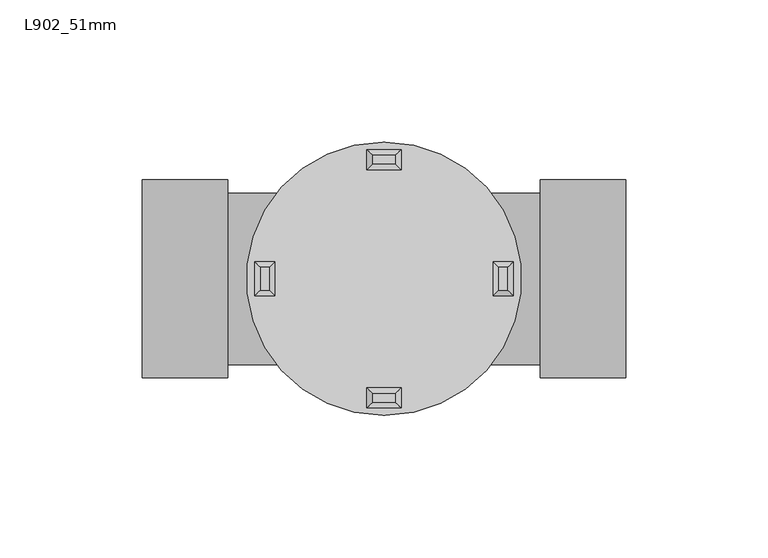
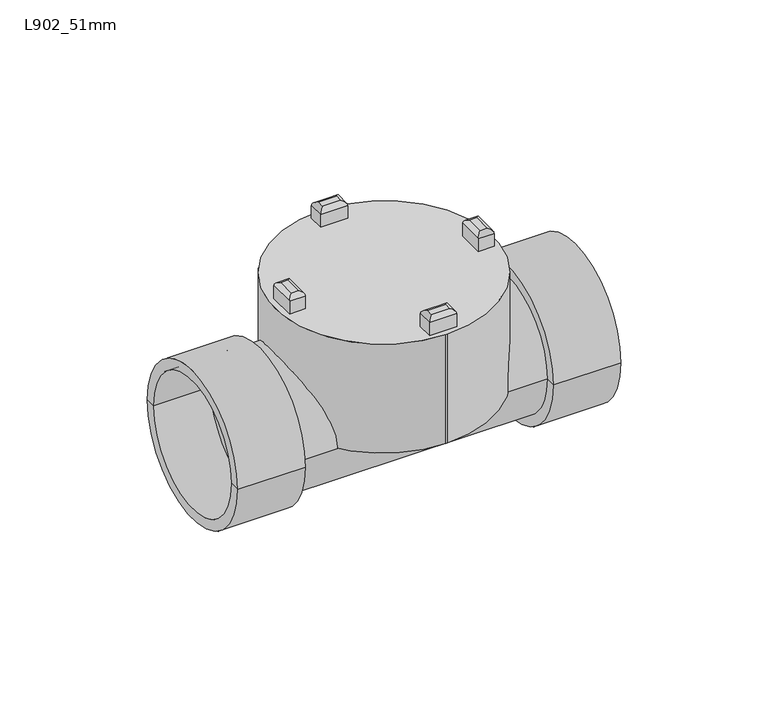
"""IFC4 building model written with IfcOpenShell, lengths in millimetres: pipe fitting geometry, Durapipe_PipeFitting_VulcatheneEnfusion_AccessPipe_L90 : L902_51mm."""

from ifc_helpers import new_model, si_unit, point, frame, frame_2d, origin, origin_with_axes, place, context, project, spatial, polyline, circle_curve, ellipse_curve, trimmed, segment, composite_curve, outline, extrude, source, transform, mapped, element, save
from ifc_brep_helpers import plane_surface, cylinder_surface, revolved_surface, advanced_brep


def l902_51mm_cfe6408b(model_context):
    return source(origin(), model_context, "Body", "SolidModel", [
        advanced_brep(
        [(38.4, -6.0, 57.15), (38.4, 6.0, 57.15), (38.4, 6.0, 51.15), (38.4, -6.0, 51.15), (45.4, 6.0, 57.15), (45.4, -6.0, 57.15), (45.4, -6.0, 51.15), (45.4, 6.0, 51.15), (40.4, 4.0, 59.15), (40.4, -4.0, 59.15), (43.4, -4.0, 59.15), (43.4, 4.0, 59.15)],
        [
            (0, 1),
            (1, 2),
            (2, 3),
            (3, 0),
            (4, 5),
            (5, 6),
            (6, 7),
            (7, 4),
            (8, 9),
            (9, 10),
            (10, 11),
            (11, 8),
            (5, 10, ellipse_curve(frame((43.4, -4.0, 57.15), z_axis=(-0.7071067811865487, -0.7071067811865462, 0.0), x_axis=(-0.7071067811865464, 0.7071067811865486, 0.0)), 2.8284271, 2.0)),
            (9, 0, ellipse_curve(frame((40.4, -4.0, 57.15), z_axis=(0.7071067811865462, -0.7071067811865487, 0.0), x_axis=(-0.7071067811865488, -0.7071067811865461, 0.0)), 2.8284271, 2.0)),
            (0, 5),
            (3, 6),
            (2, 7),
            (1, 4),
            (1, 8, ellipse_curve(frame((40.4, 4.0, 57.15), z_axis=(0.7071067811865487, 0.7071067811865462, 0.0), x_axis=(-0.7071067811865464, 0.7071067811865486, 0.0)), 2.8284271, 2.0)),
            (11, 4, ellipse_curve(frame((43.4, 4.0, 57.15), z_axis=(-0.7071067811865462, 0.7071067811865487, 0.0), x_axis=(-0.7071067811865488, -0.7071067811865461, 0.0)), 2.8284271, 2.0)),
        ],
        [
            plane_surface(frame((38.4, -6.0, 59.15), z_axis=(-1.0, 0.0, 0.0), x_axis=(0.0, -1.0, 0.0))),
            plane_surface(frame((45.4, -6.0, 59.15), z_axis=(1.0, 0.0, 0.0), x_axis=(0.0, 1.0, 0.0))),
            plane_surface(frame((38.4, 4.0, 59.15), z_axis=(0.0, 0.0, 1.0), x_axis=(1.0, 0.0, 0.0))),
            cylinder_surface(frame((45.4, -4.0, 57.15), z_axis=(-1.0, 0.0, 0.0), x_axis=(0.0, 1.0, 0.0)), 2.0),
            plane_surface(frame((38.4, -6.0, 57.15), z_axis=(0.0, -1.0, 0.0), x_axis=(1.0, 0.0, 0.0))),
            plane_surface(frame((38.4, -6.0, 51.15), z_axis=(0.0, 0.0, -1.0), x_axis=(1.0, 0.0, 0.0))),
            plane_surface(frame((38.4, 6.0, 51.15), z_axis=(0.0, 1.0, 0.0), x_axis=(1.0, 0.0, 0.0))),
            cylinder_surface(frame((45.4, 4.0, 57.15), z_axis=(-1.0, 0.0, 0.0), x_axis=(0.0, 1.0, 0.0)), 2.0),
            cylinder_surface(frame((43.4, -6.0, 57.15), z_axis=(0.0, -1.0, 0.0), x_axis=(-1.0, 0.0, 0.0)), 2.0),
            cylinder_surface(frame((40.4, -6.0, 57.15), z_axis=(0.0, -1.0, 0.0), x_axis=(-1.0, 0.0, 0.0)), 2.0),
        ],
        [
            (0, [[1, 2, 3, 4]]),
            (1, [[5, 6, 7, 8]]),
            (2, [[9, 10, 11, 12]]),
            (3, [[13, -10, 14, 15]]),
            (4, [[16, -6, -15, -4]]),
            (5, [[17, -7, -16, -3]]),
            (6, [[18, -8, -17, -2]]),
            (7, [[19, -12, 20, -18]]),
            (8, [[-20, -11, -13, -5]]),
            (9, [[-14, -9, -19, -1]]),
        ],
    ),
        advanced_brep(
        [(6.0, -38.4, 57.15), (6.0, -38.4, 51.15), (-6.0, -38.4, 51.15), (-6.0, -38.4, 57.15), (-6.0, -45.4, 57.15), (-6.0, -45.4, 51.15), (6.0, -45.4, 51.15), (6.0, -45.4, 57.15), (-4.0, -40.4, 59.15), (-4.0, -43.4, 59.15), (4.0, -43.4, 59.15), (4.0, -40.4, 59.15)],
        [
            (0, 1),
            (1, 2),
            (2, 3),
            (3, 0),
            (4, 5),
            (5, 6),
            (6, 7),
            (7, 4),
            (8, 9),
            (9, 10),
            (10, 11),
            (11, 8),
            (7, 0),
            (0, 11, ellipse_curve(frame((4.0, -40.4, 57.15), z_axis=(0.7071067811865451, -0.7071067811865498, 0.0), x_axis=(0.7071067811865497, 0.7071067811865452, 0.0)), 2.8284271, 2.0)),
            (10, 7, ellipse_curve(frame((4.0, -43.4, 57.15), z_axis=(0.7071067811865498, 0.7071067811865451, 0.0), x_axis=(-0.7071067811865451, 0.70710678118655, 0.0)), 2.8284271, 2.0)),
            (6, 1),
            (5, 2),
            (4, 3),
            (4, 9, ellipse_curve(frame((-4.0, -43.4, 57.15), z_axis=(-0.7071067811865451, 0.7071067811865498, 0.0), x_axis=(0.7071067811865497, 0.7071067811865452, 0.0)), 2.8284271, 2.0)),
            (8, 3, ellipse_curve(frame((-4.0, -40.4, 57.15), z_axis=(-0.7071067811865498, -0.7071067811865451, 0.0), x_axis=(-0.7071067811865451, 0.70710678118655, 0.0)), 2.8284271, 2.0)),
        ],
        [
            plane_surface(frame((6.0, -38.4, 59.15), z_axis=(0.0, 1.0, 0.0), x_axis=(1.0, 0.0, 0.0))),
            plane_surface(frame((6.0, -45.4, 59.15), z_axis=(0.0, -1.0, 0.0), x_axis=(-1.0, 0.0, 0.0))),
            plane_surface(frame((-4.0, -38.4, 59.15), z_axis=(0.0, 0.0, 1.0), x_axis=(0.0, -1.0, 0.0))),
            cylinder_surface(frame((4.0, -45.4, 57.15), z_axis=(0.0, 1.0, 0.0), x_axis=(-1.0, 0.0, 0.0)), 2.0),
            plane_surface(frame((6.0, -38.4, 57.15), z_axis=(1.0, 0.0, 0.0), x_axis=(0.0, -1.0, 0.0))),
            plane_surface(frame((6.0, -38.4, 51.15), z_axis=(0.0, 0.0, -1.0), x_axis=(0.0, -1.0, 0.0))),
            plane_surface(frame((-6.0, -38.4, 51.15), z_axis=(-1.0, 0.0, 0.0), x_axis=(0.0, -1.0, 0.0))),
            cylinder_surface(frame((-4.0, -45.4, 57.15), z_axis=(0.0, 1.0, 0.0), x_axis=(-1.0, 0.0, 0.0)), 2.0),
            cylinder_surface(frame((6.0, -43.4, 57.15), z_axis=(1.0, 0.0, 0.0), x_axis=(0.0, 1.0, 0.0)), 2.0),
            cylinder_surface(frame((6.0, -40.4, 57.15), z_axis=(1.0, 0.0, 0.0), x_axis=(0.0, 1.0, 0.0)), 2.0),
        ],
        [
            (0, [[1, 2, 3, 4]]),
            (1, [[5, 6, 7, 8]]),
            (2, [[9, 10, 11, 12]]),
            (3, [[13, 14, -11, 15]]),
            (4, [[-1, -13, -7, 16]]),
            (5, [[-2, -16, -6, 17]]),
            (6, [[-3, -17, -5, 18]]),
            (7, [[-18, 19, -9, 20]]),
            (8, [[-8, -15, -10, -19]]),
            (9, [[-4, -20, -12, -14]]),
        ],
    ),
        advanced_brep(
        [(6.0, 45.4, 57.15), (6.0, 45.4, 51.15), (-6.0, 45.4, 51.15), (-6.0, 45.4, 57.15), (-6.0, 38.4, 57.15), (-6.0, 38.4, 51.15), (6.0, 38.4, 51.15), (6.0, 38.4, 57.15), (-4.0, 43.4, 59.15), (-4.0, 40.4, 59.15), (4.0, 40.4, 59.15), (4.0, 43.4, 59.15)],
        [
            (0, 1),
            (1, 2),
            (2, 3),
            (3, 0),
            (4, 5),
            (5, 6),
            (6, 7),
            (7, 4),
            (8, 9),
            (9, 10),
            (10, 11),
            (11, 8),
            (7, 0),
            (0, 11, ellipse_curve(frame((4.0, 43.4, 57.15), z_axis=(0.7071067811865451, -0.7071067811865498, 0.0), x_axis=(0.7071067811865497, 0.7071067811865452, 0.0)), 2.8284271, 2.0)),
            (10, 7, ellipse_curve(frame((4.0, 40.4, 57.15), z_axis=(0.7071067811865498, 0.7071067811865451, 0.0), x_axis=(-0.7071067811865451, 0.70710678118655, 0.0)), 2.8284271, 2.0)),
            (6, 1),
            (5, 2),
            (4, 3),
            (4, 9, ellipse_curve(frame((-4.0, 40.4, 57.15), z_axis=(-0.7071067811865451, 0.7071067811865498, 0.0), x_axis=(0.7071067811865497, 0.7071067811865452, 0.0)), 2.8284271, 2.0)),
            (8, 3, ellipse_curve(frame((-4.0, 43.4, 57.15), z_axis=(-0.7071067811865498, -0.7071067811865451, 0.0), x_axis=(-0.7071067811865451, 0.70710678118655, 0.0)), 2.8284271, 2.0)),
        ],
        [
            plane_surface(frame((6.0, 45.4, 59.15), z_axis=(0.0, 1.0, 0.0), x_axis=(1.0, 0.0, 0.0))),
            plane_surface(frame((6.0, 38.4, 59.15), z_axis=(0.0, -1.0, 0.0), x_axis=(-1.0, 0.0, 0.0))),
            plane_surface(frame((-4.0, 45.4, 59.15), z_axis=(0.0, 0.0, 1.0), x_axis=(0.0, -1.0, 0.0))),
            cylinder_surface(frame((4.0, 38.4, 57.15), z_axis=(0.0, 1.0, 0.0), x_axis=(-1.0, 0.0, 0.0)), 2.0),
            plane_surface(frame((6.0, 45.4, 57.15), z_axis=(1.0, 0.0, 0.0), x_axis=(0.0, -1.0, 0.0))),
            plane_surface(frame((6.0, 45.4, 51.15), z_axis=(0.0, 0.0, -1.0), x_axis=(0.0, -1.0, 0.0))),
            plane_surface(frame((-6.0, 45.4, 51.15), z_axis=(-1.0, 0.0, 0.0), x_axis=(0.0, -1.0, 0.0))),
            cylinder_surface(frame((-4.0, 38.4, 57.15), z_axis=(0.0, 1.0, 0.0), x_axis=(-1.0, 0.0, 0.0)), 2.0),
            cylinder_surface(frame((6.0, 40.4, 57.15), z_axis=(1.0, 0.0, 0.0), x_axis=(0.0, 1.0, 0.0)), 2.0),
            cylinder_surface(frame((6.0, 43.4, 57.15), z_axis=(1.0, 0.0, 0.0), x_axis=(0.0, 1.0, 0.0)), 2.0),
        ],
        [
            (0, [[1, 2, 3, 4]]),
            (1, [[5, 6, 7, 8]]),
            (2, [[9, 10, 11, 12]]),
            (3, [[13, 14, -11, 15]]),
            (4, [[-1, -13, -7, 16]]),
            (5, [[-2, -16, -6, 17]]),
            (6, [[-3, -17, -5, 18]]),
            (7, [[-18, 19, -9, 20]]),
            (8, [[-8, -15, -10, -19]]),
            (9, [[-4, -20, -12, -14]]),
        ],
    ),
        advanced_brep(
        [(-38.4, -6.0, 57.15), (-38.4, -6.0, 51.15), (-38.4, 6.0, 51.15), (-38.4, 6.0, 57.15), (-45.4, 6.0, 57.15), (-45.4, 6.0, 51.15), (-45.4, -6.0, 51.15), (-45.4, -6.0, 57.15), (-40.4, 4.0, 59.15), (-43.4, 4.0, 59.15), (-43.4, -4.0, 59.15), (-40.4, -4.0, 59.15)],
        [
            (0, 1),
            (1, 2),
            (2, 3),
            (3, 0),
            (4, 5),
            (5, 6),
            (6, 7),
            (7, 4),
            (8, 9),
            (9, 10),
            (10, 11),
            (11, 8),
            (7, 0),
            (0, 11, ellipse_curve(frame((-40.4, -4.0, 57.15), z_axis=(-0.7071067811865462, -0.7071067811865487, 0.0), x_axis=(0.7071067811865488, -0.7071067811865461, 0.0)), 2.8284271, 2.0)),
            (10, 7, ellipse_curve(frame((-43.4, -4.0, 57.15), z_axis=(0.7071067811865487, -0.7071067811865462, 0.0), x_axis=(0.7071067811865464, 0.7071067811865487, 0.0)), 2.8284271, 2.0)),
            (6, 1),
            (5, 2),
            (4, 3),
            (4, 9, ellipse_curve(frame((-43.4, 4.0, 57.15), z_axis=(0.7071067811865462, 0.7071067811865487, 0.0), x_axis=(0.7071067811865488, -0.7071067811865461, 0.0)), 2.8284271, 2.0)),
            (8, 3, ellipse_curve(frame((-40.4, 4.0, 57.15), z_axis=(-0.7071067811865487, 0.7071067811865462, 0.0), x_axis=(0.7071067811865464, 0.7071067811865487, 0.0)), 2.8284271, 2.0)),
        ],
        [
            plane_surface(frame((-38.4, -6.0, 59.15), z_axis=(1.0, 0.0, 0.0), x_axis=(0.0, -1.0, 0.0))),
            plane_surface(frame((-45.4, -6.0, 59.15), z_axis=(-1.0, 0.0, 0.0), x_axis=(0.0, 1.0, 0.0))),
            plane_surface(frame((-38.4, 4.0, 59.15), z_axis=(0.0, 0.0, 1.0), x_axis=(-1.0, 0.0, 0.0))),
            cylinder_surface(frame((-45.4, -4.0, 57.15), z_axis=(1.0, 0.0, 0.0), x_axis=(0.0, 1.0, 0.0)), 2.0),
            plane_surface(frame((-38.4, -6.0, 57.15), z_axis=(0.0, -1.0, 0.0), x_axis=(-1.0, 0.0, 0.0))),
            plane_surface(frame((-38.4, -6.0, 51.15), z_axis=(0.0, 0.0, -1.0), x_axis=(-1.0, 0.0, 0.0))),
            plane_surface(frame((-38.4, 6.0, 51.15), z_axis=(0.0, 1.0, 0.0), x_axis=(-1.0, 0.0, 0.0))),
            cylinder_surface(frame((-45.4, 4.0, 57.15), z_axis=(1.0, 0.0, 0.0), x_axis=(0.0, 1.0, 0.0)), 2.0),
            cylinder_surface(frame((-43.4, -6.0, 57.15), z_axis=(0.0, -1.0, 0.0), x_axis=(1.0, 0.0, 0.0)), 2.0),
            cylinder_surface(frame((-40.4, -6.0, 57.15), z_axis=(0.0, -1.0, 0.0), x_axis=(1.0, 0.0, 0.0)), 2.0),
        ],
        [
            (0, [[1, 2, 3, 4]]),
            (1, [[5, 6, 7, 8]]),
            (2, [[9, 10, 11, 12]]),
            (3, [[13, 14, -11, 15]]),
            (4, [[-1, -13, -7, 16]]),
            (5, [[-2, -16, -6, 17]]),
            (6, [[-3, -17, -5, 18]]),
            (7, [[-18, 19, -9, 20]]),
            (8, [[-8, -15, -10, -19]]),
            (9, [[-4, -20, -12, -14]]),
        ],
    ),
        extrude(outline(composite_curve([segment(trimmed(circle_curve(frame_2d((-0.4, 0.0)), 48.0), [point((-0.4, -48.0))], [point((-0.4, 48.0))], False, "CARTESIAN"), True, "CONTINUOUS"), segment(polyline([(-0.4, 48.0), (0.4, 48.0)]), True, "CONTINUOUS"), segment(trimmed(circle_curve(frame_2d((0.4, 0.0)), 48.0), [point((0.4, 48.0))], [point((0.4, -48.0))], False, "CARTESIAN"), True, "CONTINUOUS"), segment(polyline([(0.4, -48.0), (-0.4, -48.0)]), True, "CONTINUOUS")], self_intersect=False)), origin_with_axes(), (0.0, 0.0, 1.0), 51.15),
        advanced_brep(
        [(55.0, -30.15, 0.0), (55.0, 30.15, 0.0), (55.0, 0.0, 0.0), (-55.0, -30.15, 0.0), (-55.0, 30.15, 0.0), (-55.0, 0.0, 0.0)],
        [
            (0, 1, circle_curve(frame((55.0, 0.0, 0.0), z_axis=(1.0, 0.0, 0.0), x_axis=(0.0, 1.0, 0.0)), 30.15)),
            (1, 2),
            (2, 0),
            (1, 0, circle_curve(frame((55.0, 0.0, 0.0), z_axis=(1.0, 0.0, 0.0), x_axis=(0.0, 1.0, 0.0)), 30.15)),
            (3, 4, circle_curve(frame((-55.0, 0.0, 0.0), z_axis=(1.0, 0.0, 0.0), x_axis=(0.0, 1.0, 0.0)), 30.15)),
            (4, 1),
            (0, 3),
            (4, 3, circle_curve(frame((-55.0, 0.0, 0.0), z_axis=(1.0, 0.0, 0.0), x_axis=(0.0, 1.0, 0.0)), 30.15)),
            (5, 4),
            (3, 5),
        ],
        [
            plane_surface(frame((55.0, 0.0, 0.0), z_axis=(1.0, 0.0, 0.0), x_axis=(0.0, 1.0, 0.0))),
            cylinder_surface(frame((1521.2518184, 0.0, 0.0), z_axis=(-1.0, 0.0, 0.0), x_axis=(0.0, 1.0, 0.0)), 30.15),
            plane_surface(frame((-55.0, 0.0, 0.0), z_axis=(-1.0, 0.0, 0.0), x_axis=(0.0, 1.0, 0.0))),
        ],
        [
            (0, [[1, 2, 3]]),
            (0, [[4, -3, -2]]),
            (1, [[5, 6, -1, 7]]),
            (1, [[8, -7, -4, -6]]),
            (2, [[9, -5, 10]]),
            (2, [[-10, -8, -9]]),
        ],
    ),
        advanced_brep(
        [(-85.0, -34.8, 0.0), (-85.0, 34.8, 0.0), (-55.0, 34.8, 0.0), (-55.0, -34.8, 0.0), (-85.0, -30.15, 0.0), (-85.0, 30.15, 0.0), (-59.65, -30.15, 0.0), (-59.65, 30.15, 0.0), (-59.65, 0.0, 0.0), (-55.0, 0.0, 0.0)],
        [
            (0, 1, circle_curve(frame((-85.0, 0.0, 0.0), z_axis=(1.0, 0.0, 0.0), x_axis=(0.0, 1.0, 0.0)), 34.8)),
            (1, 2),
            (2, 3, circle_curve(frame((-55.0, 0.0, 0.0), z_axis=(-1.0, 0.0, 0.0), x_axis=(0.0, 1.0, 0.0)), 34.8)),
            (3, 0),
            (1, 0, circle_curve(frame((-85.0, 0.0, 0.0), z_axis=(1.0, 0.0, 0.0), x_axis=(0.0, 1.0, 0.0)), 34.8)),
            (3, 2, circle_curve(frame((-55.0, 0.0, 0.0), z_axis=(-1.0, 0.0, 0.0), x_axis=(0.0, 1.0, 0.0)), 34.8)),
            (4, 5, circle_curve(frame((-85.0, 0.0, 0.0), z_axis=(1.0, 0.0, 0.0), x_axis=(0.0, 1.0, 0.0)), 30.15)),
            (5, 1),
            (0, 4),
            (5, 4, circle_curve(frame((-85.0, 0.0, 0.0), z_axis=(1.0, 0.0, 0.0), x_axis=(0.0, 1.0, 0.0)), 30.15)),
            (6, 7, circle_curve(frame((-59.65, 0.0, 0.0), z_axis=(1.0, 0.0, 0.0), x_axis=(0.0, 1.0, 0.0)), 30.15)),
            (7, 5),
            (4, 6),
            (7, 6, circle_curve(frame((-59.65, 0.0, 0.0), z_axis=(1.0, 0.0, 0.0), x_axis=(0.0, 1.0, 0.0)), 30.15)),
            (8, 7),
            (6, 8),
            (2, 9),
            (9, 3),
        ],
        [
            cylinder_surface(frame((1521.2518184, 0.0, 0.0), z_axis=(-1.0, 0.0, 0.0), x_axis=(0.0, 1.0, 0.0)), 34.8),
            plane_surface(frame((-85.0, 0.0, 0.0), z_axis=(-1.0, 0.0, 0.0), x_axis=(0.0, 1.0, 0.0))),
            revolved_surface(polyline([(-85.0, 30.15, 0.0), (-59.65000000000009, 30.15, 0.0)]), (1521.2518184, 0.0, 0.0), (-1.0, 0.0, 0.0)),
            plane_surface(frame((-59.65, 0.0, 0.0), z_axis=(-1.0, 0.0, 0.0), x_axis=(0.0, 1.0, 0.0))),
            plane_surface(frame((-55.0, 0.0, 0.0), z_axis=(1.0, 0.0, 0.0), x_axis=(0.0, 1.0, 0.0))),
        ],
        [
            (0, [[1, 2, 3, 4]]),
            (0, [[5, -4, 6, -2]]),
            (1, [[7, 8, -1, 9]]),
            (1, [[10, -9, -5, -8]]),
            (2, [[11, 12, -7, 13]]),
            (2, [[14, -13, -10, -12]]),
            (3, [[15, -11, 16]]),
            (3, [[-16, -14, -15]]),
            (4, [[-3, 17, 18]]),
            (4, [[-6, -18, -17]]),
        ],
    ),
        advanced_brep(
        [(55.0, 0.0, 0.0), (55.0, 34.8, 0.0), (55.0, -34.8, 0.0), (59.65, -30.15, 0.0), (59.65, 30.15, 0.0), (59.65, 0.0, 0.0), (85.0, -30.15, 0.0), (85.0, 30.15, 0.0), (85.0, -34.8, 0.0), (85.0, 34.8, 0.0)],
        [
            (0, 1),
            (1, 2, circle_curve(frame((55.0, 0.0, 0.0), z_axis=(-1.0, 0.0, 0.0), x_axis=(0.0, 1.0, 0.0)), 34.8)),
            (2, 0),
            (2, 1, circle_curve(frame((55.0, 0.0, 0.0), z_axis=(-1.0, 0.0, 0.0), x_axis=(0.0, 1.0, 0.0)), 34.8)),
            (3, 4, circle_curve(frame((59.65, 0.0, 0.0), z_axis=(1.0, 0.0, 0.0), x_axis=(0.0, 1.0, 0.0)), 30.15)),
            (4, 5),
            (5, 3),
            (4, 3, circle_curve(frame((59.65, 0.0, 0.0), z_axis=(1.0, 0.0, 0.0), x_axis=(0.0, 1.0, 0.0)), 30.15)),
            (6, 7, circle_curve(frame((85.0, 0.0, 0.0), z_axis=(1.0, 0.0, 0.0), x_axis=(0.0, 1.0, 0.0)), 30.15)),
            (7, 4),
            (3, 6),
            (7, 6, circle_curve(frame((85.0, 0.0, 0.0), z_axis=(1.0, 0.0, 0.0), x_axis=(0.0, 1.0, 0.0)), 30.15)),
            (8, 9, circle_curve(frame((85.0, 0.0, 0.0), z_axis=(1.0, 0.0, 0.0), x_axis=(0.0, 1.0, 0.0)), 34.8)),
            (9, 7),
            (6, 8),
            (9, 8, circle_curve(frame((85.0, 0.0, 0.0), z_axis=(1.0, 0.0, 0.0), x_axis=(0.0, 1.0, 0.0)), 34.8)),
            (1, 9),
            (8, 2),
        ],
        [
            plane_surface(frame((55.0, 0.0, 0.0), z_axis=(-1.0, 0.0, 0.0), x_axis=(0.0, 1.0, 0.0))),
            plane_surface(frame((59.65, 0.0, 0.0), z_axis=(1.0, 0.0, 0.0), x_axis=(0.0, 1.0, 0.0))),
            revolved_surface(polyline([(59.65000000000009, 30.15, 0.0), (85.0, 30.15, 0.0)]), (1521.2518184, 0.0, 0.0), (-1.0, 0.0, 0.0)),
            plane_surface(frame((85.0, 0.0, 0.0), z_axis=(1.0, 0.0, 0.0), x_axis=(0.0, 1.0, 0.0))),
            cylinder_surface(frame((1521.2518184, 0.0, 0.0), z_axis=(-1.0, 0.0, 0.0), x_axis=(0.0, 1.0, 0.0)), 34.8),
        ],
        [
            (0, [[1, 2, 3]]),
            (0, [[-3, 4, -1]]),
            (1, [[5, 6, 7]]),
            (1, [[8, -7, -6]]),
            (2, [[9, 10, -5, 11]]),
            (2, [[12, -11, -8, -10]]),
            (3, [[13, 14, -9, 15]]),
            (3, [[16, -15, -12, -14]]),
            (4, [[-2, 17, -13, 18]]),
            (4, [[-4, -18, -16, -17]]),
        ],
    ),
    ])


if __name__ == "__main__":
    model = new_model("IFC4")
    model_context = context("Model", 3, world=origin())
    ifc_project = project(units=[si_unit("LENGTHUNIT", "METRE", prefix="MILLI")], contexts=[model_context])
    site = spatial("IfcSite", under=ifc_project)
    building = spatial("IfcBuilding", under=site)
    placement = place(None, origin())
    l902_51mm_shape = l902_51mm_cfe6408b(model_context)
    element("IfcPipeFitting", 1, ObjectType="Durapipe_PipeFitting_VulcatheneEnfusion_AccessPipe_L90 : L902_51mm", at=placement, inside=building, context=model_context, shape_type="MappedRepresentation", body=[
        mapped(l902_51mm_shape, transform((0.0, 0.0, 0.0), x_axis=(1.0, 0.0, 0.0), y_axis=(0.0, 1.0, 0.0), z_axis=(0.0, 0.0, 1.0))),
    ])
    save(model, "model.ifc")
